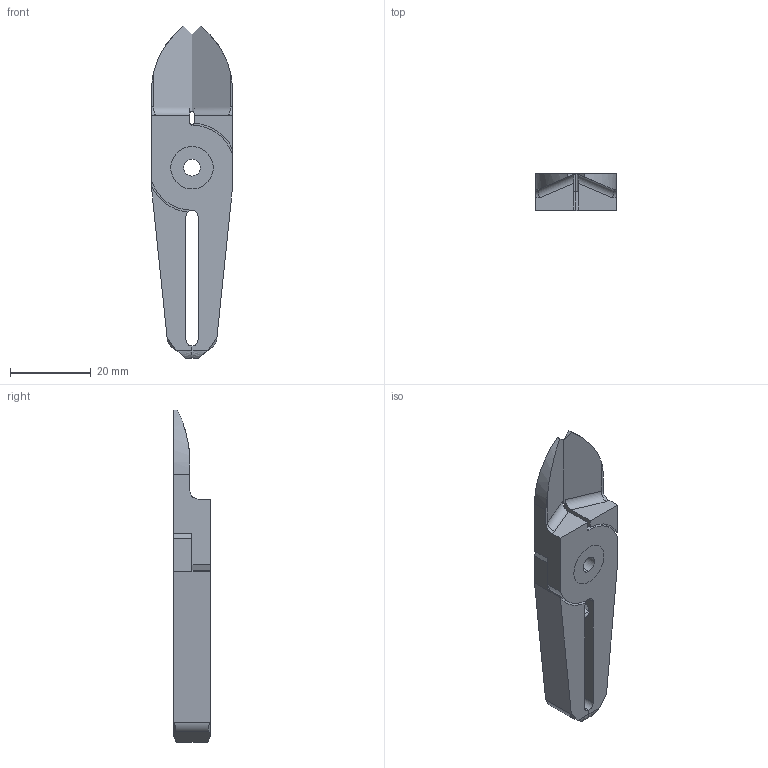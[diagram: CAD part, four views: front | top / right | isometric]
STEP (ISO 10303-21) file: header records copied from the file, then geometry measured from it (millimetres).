
FILE_DESCRIPTION (( 'STEP AP214' ), '1' );
FILE_NAME ('NT10AJT.STEP', '2019-11-28T09:23:05', ( '微软用户' ), ( '微软中国' ), 'SwSTEP 2.0', 'SolidWorks 2016', '' );
FILE_SCHEMA (( 'AUTOMOTIVE_DESIGN' ));
Length unit declared in the file: millimetre
Products named in the file (4): BR2; BR1; BS; NT10AJT
Assembly tree (3 placements, depth 2):
  NT10AJT
    BS
    BR1
    BR2
Bounding box: 20 x 9 x 82 mm (x, y, z)
Volume: 8400.3 mm3; surface area: 6417.9 mm2
Topology: 3 solids, 3 shells, 94 faces, 246 edges, 156 vertices
Faces by surface type: plane 38, cylinder 28, cone 16, bspline 12
Entity records: 3088 total; most frequent: CARTESIAN_POINT 704, ORIENTED_EDGE 484, DIRECTION 454, EDGE_CURVE 242, VERTEX_POINT 156, AXIS2_PLACEMENT_3D 154, LINE 146, VECTOR 146
